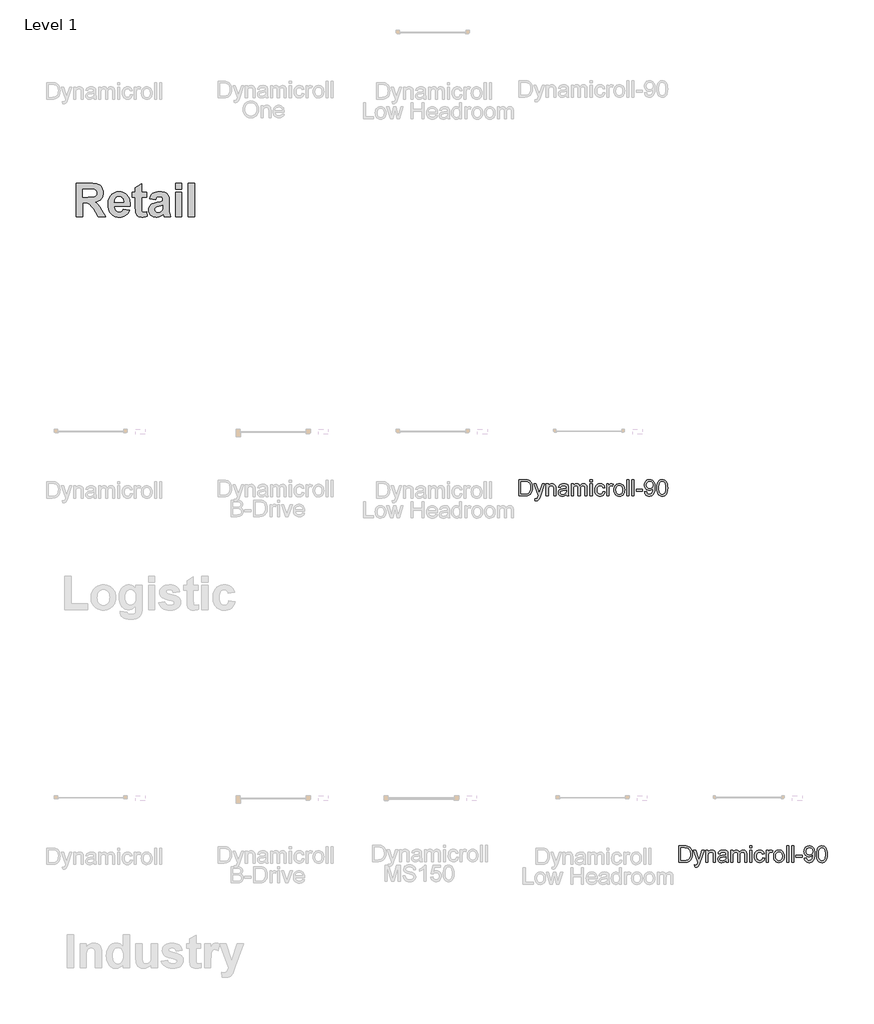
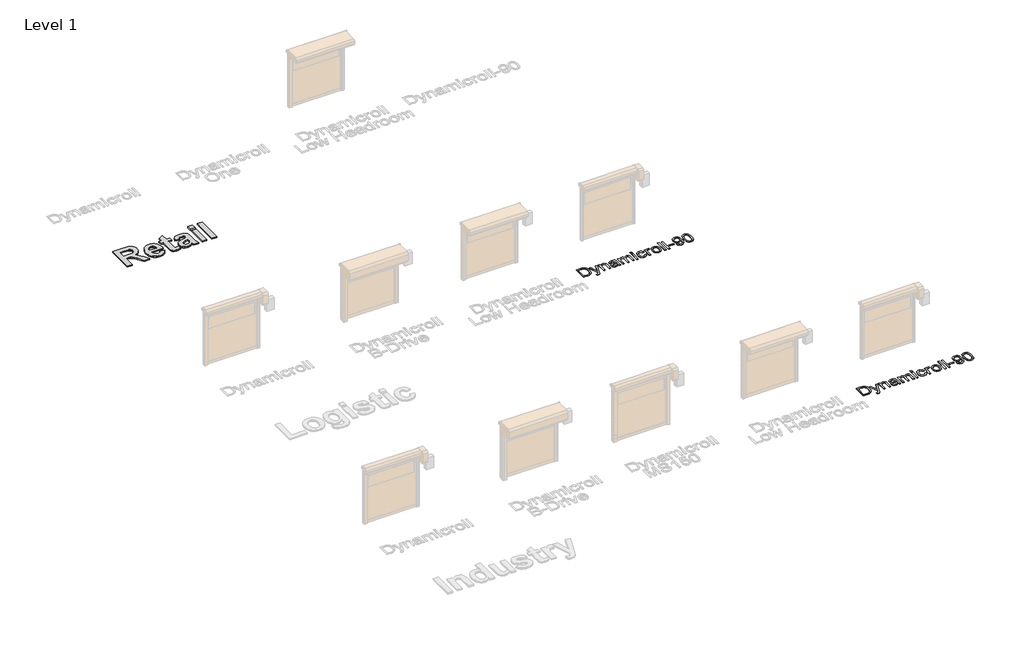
# One storey, part 11 of 17: 3 proxies.
"""IFC4 building model written with IfcOpenShell, lengths in millimetres."""

from ifc_helpers import new_model, si_unit, origin, origin_with_axes, place, context, project, spatial, polyline, outline, extrude, element, save

model = new_model("IFC4")

# Units and contexts
model_context = context("Model", 3, world=origin())
ifc_project = project(units=[si_unit("LENGTHUNIT", "METRE", prefix="MILLI")], contexts=[model_context])

# Site, building, storey
site = spatial("IfcSite", under=ifc_project)
building = spatial("IfcBuilding", under=site)
storey = spatial("IfcBuildingStorey", under=building, Name="Level 1", Elevation=0.0)

# Proxies
placement = place(None, origin())
element("IfcBuildingElementProxy", 1, Name="1000", ObjectType="1000", at=placement, inside=storey, context=model_context, shape_type="SweptSolid", body=[
    extrude(outline(polyline([(1045.7794526, 38987.0003222), (1045.7794526, 40007.2597221), (1474.9361844, 40007.2597221), (1550.3738911, 40005.5358836), (1614.7410749, 40000.3643678), (1668.0377356, 39991.7451749), (1710.2638733, 39979.6783048), (1745.1202058, 39963.1990406), (1776.3074506, 39941.3426652), (1803.8256077, 39914.1091786), (1827.6746773, 39881.4985808), (1846.9373873, 39844.9184098), (1860.6964659, 39805.7762035), (1868.9519131, 39764.0719618), (1871.7037288, 39719.8056849), (1867.726248, 39664.6270352), (1855.7938057, 39614.477566), (1835.9064019, 39569.3572772), (1808.0640366, 39529.2661689), (1772.2983397, 39495.1689581), (1728.6409415, 39468.0303617), (1677.0918419, 39447.8503798), (1617.6510409, 39434.6290123), (1674.015818, 39394.0160079), (1719.6263728, 39349.6073956), (1766.8184308, 39285.271842), (1827.9277178, 39184.8780134), (1952.676697, 38987.0003222), (1725.6993454, 38987.0003222), (1577.9236784, 39220.0506464), (1506.53462, 39309.5321024), (1461.9045973, 39358.3372938), (1429.7051904, 39382.3445137), (1395.6079795, 39397.432055), (1350.3453555, 39405.4028316), (1284.649709, 39408.0597571), (1240.1145764, 39408.0597571), (1240.1145764, 38987.0003222), (1045.7794526, 38987.0003222)]), holes=[polyline([(1240.1145764, 39586.2002872), (1400.2892293, 39586.2002872), (1526.7146019, 39589.1418834), (1568.0313753, 39592.8188785), (1594.7508733, 39597.9666717), (1629.3541652, 39613.9714849), (1655.4805995, 39638.4531558), (1665.0566019, 39653.706755), (1671.8966036, 39670.7474529), (1677.368605, 39710.1901449), (1675.5656912, 39733.1931102), (1670.15695, 39753.8712656), (1661.1423813, 39772.2246113), (1648.521985, 39788.2531471), (1632.612062, 39801.7512776), (1613.7289127, 39812.5134075), (1591.8725373, 39820.5395367), (1567.0429357, 39825.8296652), (1409.1456477, 39829.119192), (1240.1145764, 39829.119192), (1240.1145764, 39586.2002872)])]), origin_with_axes(), (0.0, 0.0, 1.0), 50.0),
    extrude(outline(polyline([(2487.0982875, 39213.7246333), (2681.4334113, 39181.335446), (2660.4310477, 39132.9177229), (2634.114833, 39090.6520476), (2602.4847672, 39054.53842), (2565.5408505, 39024.5768403), (2523.457048, 39001.0519789), (2476.4073253, 38984.2485065), (2424.3916822, 38974.166423), (2367.4101188, 38970.8057285), (2321.8746854, 38972.7865614), (2279.3994609, 38978.72906), (2239.9844453, 38988.6332243), (2203.6296385, 39002.4990544), (2170.3350406, 39020.3265502), (2140.1006515, 39042.1157117), (2112.9264713, 39067.866539), (2088.8124999, 39097.579032), (2057.593625, 39151.6506293), (2035.2944287, 39212.3961705), (2021.9149109, 39279.8156556), (2017.4550716, 39353.9090846), (2023.3698939, 39441.2713261), (2030.7634218, 39481.2042841), (2041.1143608, 39518.6384669), (2054.422711, 39553.5738744), (2070.6884722, 39586.0105068), (2089.9116447, 39615.9483641), (2112.0922283, 39643.3874461), (2136.5343616, 39667.9402846), (2162.5421831, 39689.2194113), (2190.1156929, 39707.2248262), (2219.2548909, 39721.9565293), (2249.9597772, 39733.4145206), (2282.2303518, 39741.5988001), (2316.0666146, 39746.5093678), (2351.4685657, 39748.1462237), (2391.0101016, 39746.4658765), (2428.4087005, 39741.4248348), (2463.6643625, 39733.0230986), (2496.7770876, 39721.2606679), (2527.7468757, 39706.1375427), (2556.5737269, 39687.653723), (2583.257641, 39665.8092089), (2607.7986183, 39640.6040003), (2629.7380226, 39611.9273919), (2648.6172181, 39579.6686787), (2664.4362047, 39543.8278604), (2677.1949825, 39504.4049373), (2686.8935514, 39461.3999092), (2693.5319114, 39414.8127761), (2697.1100626, 39364.6435381), (2697.6280049, 39310.8921952), (2211.7901954, 39310.8921952), (2215.411838, 39267.4008548), (2224.2524413, 39229.0335851), (2238.3120055, 39195.790386), (2257.5905306, 39167.6712576), (2280.8228139, 39145.3088011), (2306.7436527, 39129.3356179), (2335.3530472, 39119.751708), (2366.6509972, 39116.5570714), (2407.453782, 39122.3137434), (2425.245694, 39129.5095833), (2441.2979523, 39139.5837592), (2455.5472969, 39152.8525718), (2467.9304677, 39169.6323217), (2487.0982875, 39213.7246333)]), holes=[polyline([(2503.2928811, 39424.2543507), (2499.8293889, 39465.2864535), (2491.4632366, 39501.0837804), (2478.194424, 39531.6463314), (2460.0229512, 39556.9741065), (2438.2930961, 39576.8456953), (2414.3491363, 39591.0396873), (2388.191072, 39599.5560825), (2359.818903, 39602.3948809), (2329.6754504, 39599.4058397), (2302.2521834, 39590.438716), (2277.5491021, 39575.49351), (2255.5662064, 39554.5702215), (2237.6635892, 39528.3963421), (2224.9483028, 39497.9524039), (2217.4203471, 39463.2384067), (2215.0797223, 39424.2543507), (2503.2928811, 39424.2543507)])]), origin_with_axes(), (0.0, 0.0, 1.0), 50.0),
    extrude(outline(polyline([(3199.6604081, 39731.9516301), (3199.6604081, 39586.2002872), (3053.9090652, 39586.2002872), (3053.9090652, 39266.6101032), (3055.0161175, 39189.9071938), (3058.3372744, 39153.6275084), (3065.5805595, 39138.9511579), (3078.4539962, 39127.0582532), (3095.8505324, 39119.1823668), (3116.6631156, 39116.5570714), (3155.1252756, 39121.2383211), (3207.7577049, 39135.2820703), (3215.8550017, 38997.1219432), (3179.5278713, 38985.6085993), (3140.891746, 38977.3847822), (3099.9466259, 38972.450492), (3056.692511, 38970.8057285), (3004.9457235, 38975.360458), (2958.512787, 38989.0246464), (2920.5883382, 39009.9004898), (2894.3670137, 39036.0901842), (2877.0653678, 39070.0608748), (2865.8999546, 39114.2797067), (2861.1554447, 39167.1019164), (2859.5739414, 39255.7293606), (2859.5739414, 39586.2002872), (2762.4063795, 39586.2002872), (2762.4063795, 39731.9516301), (2859.5739414, 39731.9516301), (2859.5739414, 39877.7029729), (3053.9090652, 39991.0651285), (3053.9090652, 39731.9516301), (3199.6604081, 39731.9516301)])), origin_with_axes(), (0.0, 0.0, 1.0), 50.0),
    extrude(outline(polyline([(3474.9685001, 39505.227319), (3296.82797, 39537.6165063), (3313.5681823, 39587.7817905), (3335.4482802, 39630.9884603), (3362.4682639, 39667.2365156), (3394.6281332, 39696.5259565), (3433.5568366, 39719.1098234), (3480.8833224, 39735.2411569), (3536.6075907, 39744.919957), (3600.7296415, 39748.1462237), (3658.8815173, 39746.1930672), (3709.0942466, 39740.3335975), (3751.3678295, 39730.5678147), (3785.7022658, 39716.8957188), (3813.8213942, 39700.2266742), (3837.4490533, 39681.4700452), (3856.5852431, 39660.6258319), (3871.2299635, 39637.6940342), (3882.0790761, 39608.6971715), (3889.8284422, 39569.6577629), (3894.4780618, 39520.5758084), (3896.027935, 39461.451308), (3896.027935, 39231.6905106), (3898.5899704, 39146.4158534), (3906.2760763, 39086.9513299), (3920.9840569, 39038.6838496), (3944.611716, 38987.0003222), (3750.2765922, 38987.0003222), (3732.0576743, 39048.7422105), (3725.2255801, 39073.2871415), (3674.9337756, 39028.5305985), (3621.225924, 38996.4893419), (3593.0593505, 38985.2527611), (3563.9755051, 38977.2266319), (3533.9743878, 38972.4109544), (3503.0559985, 38970.8057285), (3450.573812, 38974.7041341), (3403.9590026, 38986.3993509), (3363.2115704, 39005.8913789), (3328.3315155, 39033.1802181), (3300.3784449, 39066.4155097), (3280.4119659, 39103.7468948), (3268.4320785, 39145.1743734), (3264.4387827, 39190.6979454), (3266.2179739, 39221.3474791), (3271.5555475, 39250.2889893), (3280.4515035, 39277.5224759), (3292.9058418, 39303.0479389), (3308.5706319, 39326.2802222), (3327.0979429, 39346.6341695), (3348.4877748, 39364.1097808), (3372.7401277, 39378.7070561), (3435.430918, 39403.3152472), (3520.7688353, 39424.5073913), (3631.2842849, 39449.4951432), (3701.6928112, 39472.8381317), (3701.6928112, 39493.3344143), (3700.1824756, 39520.6944211), (3695.6514687, 39543.8159992), (3688.0997905, 39562.6991484), (3677.527441, 39577.3438688), (3662.7799229, 39588.3036866), (3642.7027387, 39596.1321279), (3617.2958884, 39600.8291926), (3586.559372, 39602.3948809), (3546.2626683, 39597.0177697), (3529.8624792, 39590.2963808), (3515.9610653, 39580.8864362), (3503.9100103, 39568.0920746), (3493.0608977, 39551.2174346), (3474.9685001, 39505.227319)]), holes=[polyline([(3701.6928112, 39327.0867888), (3592.1262636, 39300.1379728), (3530.1313348, 39284.6708707), (3493.9465396, 39269.393549), (3478.5585126, 39256.409407), (3467.5670648, 39241.7488715), (3460.9721961, 39225.4119426), (3458.7739065, 39207.3986201), (3460.5372827, 39189.5513556), (3465.8274112, 39172.9534786), (3474.644292, 39157.6049892), (3486.9879251, 39143.5058874), (3502.0517439, 39131.7157804), (3519.0291817, 39123.2942754), (3537.9202385, 39118.2413724), (3558.7249142, 39116.5570714), (3582.8428393, 39118.5181355), (3606.3597932, 39124.4013277), (3629.2757758, 39134.2066481), (3651.5907871, 39147.9340966), (3678.7926437, 39174.3768315), (3694.6076765, 39206.1334175), (3699.9215276, 39238.8389055), (3701.6928112, 39291.9141558), (3701.6928112, 39327.0867888)])]), origin_with_axes(), (0.0, 0.0, 1.0), 50.0),
    extrude(outline(polyline([(4090.3630589, 39829.119192), (4090.3630589, 40007.2597221), (4284.6981827, 40007.2597221), (4284.6981827, 39829.119192), (4090.3630589, 39829.119192)])), origin_with_axes(), (0.0, 0.0, 1.0), 50.0),
    extrude(outline(polyline([(4090.3630589, 38987.0003222), (4090.3630589, 39731.9516301), (4284.6981827, 39731.9516301), (4284.6981827, 38987.0003222), (4090.3630589, 38987.0003222)])), origin_with_axes(), (0.0, 0.0, 1.0), 50.0),
    extrude(outline(polyline([(4479.0333065, 38987.0003222), (4479.0333065, 40007.2597221), (4673.3684303, 40007.2597221), (4673.3684303, 38987.0003222), (4479.0333065, 38987.0003222)])), origin_with_axes(), (0.0, 0.0, 1.0), 50.0),
])
element("IfcBuildingElementProxy", 2, Name="500mm", ObjectType="500mm", at=placement, inside=storey, context=model_context, shape_type="SweptSolid", body=[
    extrude(outline(polyline([(14635.3862268, 30417.6094957), (14635.3862268, 30919.8910465), (14808.6586466, 30919.8910465), (14860.4380374, 30918.0822933), (14898.299226, 30912.6560339), (14938.3370499, 30898.7071749), (14972.1208797, 30876.7262257), (14990.7372415, 30858.7613216), (15006.8550715, 30838.4664982), (15020.4743695, 30815.8417555), (15031.5951356, 30790.8870935), (15046.4023859, 30734.9077166), (15051.338136, 30671.4480724), (15047.9965413, 30617.5380317), (15037.9717569, 30570.0965827), (15022.7046541, 30529.7062053), (15003.636104, 30496.9493794), (14981.6858116, 30471.0903408), (14957.7734819, 30451.3933256), (14930.320288, 30436.7853447), (14897.7474031, 30426.193409), (14859.9935133, 30419.755474), (14816.9973051, 30417.6094957), (14635.3862268, 30417.6094957)]), holes=[polyline([(14698.1714207, 30480.3946896), (14809.2717832, 30480.3946896), (14855.2263758, 30482.6632952), (14890.0831948, 30489.4691121), (14916.3867575, 30500.4136015), (14936.6815809, 30515.0982245), (14958.4939175, 30542.2755068), (14974.8799947, 30577.4542226), (14985.1347053, 30620.787656), (14988.5529422, 30672.4290911), (14986.8783127, 30708.8800654), (14981.8544242, 30740.8551422), (14973.4812767, 30768.3543213), (14961.7588702, 30791.3776028), (14947.6375665, 30810.4461529), (14932.0677275, 30826.0811377), (14915.0493531, 30838.2825572), (14896.5824434, 30847.0504114), (14860.4686942, 30854.5919923), (14807.5550006, 30857.1058526), (14698.1714207, 30857.1058526), (14698.1714207, 30480.3946896)])]), origin_with_axes(), (0.0, 0.0, 1.0), 5.0),
    extrude(outline(polyline([(15129.8196283, 30276.3428096), (15121.9714791, 30336.7980841), (15153.8545854, 30331.2798542), (15170.623873, 30333.0119653), (15183.653027, 30338.2082984), (15193.8004387, 30346.5009717), (15201.9244994, 30357.5221032), (15219.0923258, 30403.7526072), (15223.9974191, 30418.9583964), (15090.5788822, 30786.4725096), (15156.7976413, 30786.4725096), (15227.5536117, 30581.6848656), (15252.2017054, 30499.769808), (15276.8497991, 30572.1199337), (15349.5678068, 30786.4725096), (15415.2960566, 30786.4725096), (15286.9052403, 30408.7803278), (15253.5506061, 30326.8652703), (15236.4747501, 30300.7149918), (15217.1302885, 30282.5968035), (15194.65883, 30272.0201961), (15168.2019832, 30268.4946604), (15150.0224812, 30270.4566977), (15129.8196283, 30276.3428096)])), origin_with_axes(), (0.0, 0.0, 1.0), 5.0),
    extrude(outline(polyline([(15467.2900453, 30417.6094957), (15467.2900453, 30786.4725096), (15530.0752391, 30786.4725096), (15530.0752391, 30734.9690302), (15551.8875757, 30760.9353677), (15578.0838395, 30779.4827517), (15608.6640303, 30790.611182), (15643.6281483, 30794.3206588), (15674.5762211, 30791.3316176), (15702.9184632, 30782.3644939), (15726.5548814, 30768.5382623), (15743.3854826, 30750.971897), (15754.8051529, 30729.7113834), (15762.2087781, 30704.8027066), (15765.519716, 30644.1021774), (15765.519716, 30417.6094957), (15702.7345222, 30417.6094957), (15702.7345222, 30635.6408915), (15700.925769, 30668.1064776), (15695.4995096, 30691.1910728), (15685.4900536, 30707.7304342), (15669.9317109, 30720.5603188), (15649.9894411, 30728.7916784), (15626.8282038, 30731.5354649), (15607.7634859, 30729.9949591), (15590.0553327, 30725.3734415), (15573.7037445, 30717.6709123), (15558.7087211, 30706.8873713), (15546.1815727, 30691.7965453), (15537.2336096, 30671.1721609), (15531.8648317, 30645.0142182), (15530.0752391, 30613.3227172), (15530.0752391, 30417.6094957), (15467.2900453, 30417.6094957)])), origin_with_axes(), (0.0, 0.0, 1.0), 5.0),
    extrude(outline(polyline([(16087.2938345, 30464.6983911), (16057.2961234, 30438.9773083), (16026.4093643, 30422.146707), (15993.9284498, 30412.8576866), (15959.1482728, 30409.7613465), (15931.1930733, 30411.6237491), (15906.6791032, 30417.2109569), (15885.6063627, 30426.5229699), (15867.9748517, 30439.5597881), (15854.0528174, 30455.493677), (15844.1085072, 30473.4969022), (15838.1419211, 30493.5694635), (15836.1530591, 30515.7113611), (15839.1574287, 30541.7390123), (15848.1705376, 30565.3754305), (15862.0734113, 30585.6089402), (15879.7470755, 30601.427866), (15900.5170798, 30613.3840308), (15923.7089739, 30622.0292577), (15978.0328819, 30631.4715623), (16042.2282901, 30641.4043761), (16086.9259525, 30653.0539726), (16087.2938345, 30667.0334885), (16082.971221, 30695.0538338), (16070.0033807, 30713.3866199), (16056.9282414, 30721.3267396), (16041.0020167, 30726.9982537), (16000.5963109, 30731.5354649), (15963.1949748, 30728.5157669), (15937.0753531, 30719.4566728), (15919.2637332, 30702.7027136), (15906.7864022, 30676.5984203), (15844.0012083, 30684.4465696), (15854.8997124, 30718.7822224), (15871.1631623, 30745.7602354), (15894.3090712, 30766.392284), (15925.8549522, 30781.6900436), (15964.4365765, 30791.163005), (16008.6897148, 30794.3206588), (16051.1341, 30791.530887), (16084.7799742, 30783.1615716), (16110.1485034, 30770.5769417), (16127.7608539, 30755.1412263), (16139.4411073, 30736.0573478), (16147.013345, 30712.5282285), (16150.0790283, 30657.5911839), (16150.0790283, 30579.4775736), (16153.2673389, 30470.400562), (16157.9884912, 30443.4378775), (16165.7753268, 30417.6094957), (16102.9901329, 30417.6094957), (16092.9346917, 30439.4371608), (16087.2938345, 30464.6983911)]), holes=[polyline([(16087.2938345, 30590.2687788), (16045.1100323, 30579.8147988), (15986.0036585, 30571.0162877), (15931.9863188, 30560.8382192), (15917.9301609, 30553.8791181), (15907.5221662, 30544.2835294), (15901.0842312, 30532.7872171), (15898.9382529, 30520.1259451), (15903.61342, 30501.4559338), (15917.638921, 30486.1581742), (15940.7081878, 30475.9494488), (15972.514652, 30472.5465403), (16006.2371682, 30476.3020024), (16036.0356098, 30487.5683885), (16060.1931941, 30504.1690635), (16076.9931386, 30523.9273923), (16084.442749, 30544.2835294), (16086.9259525, 30572.4878157), (16087.2938345, 30590.2687788)])]), origin_with_axes(), (0.0, 0.0, 1.0), 5.0),
    extrude(outline(polyline([(16236.4086698, 30417.6094957), (16236.4086698, 30786.4725096), (16299.1938637, 30786.4725096), (16299.1938637, 30725.7719804), (16318.0784728, 30753.6543699), (16342.3586844, 30775.4973634), (16371.2067642, 30789.6148349), (16403.7949776, 30794.3206588), (16438.7131104, 30789.5228644), (16466.7027988, 30775.1294814), (16487.6107589, 30752.0908714), (16501.2837064, 30721.3573964), (16524.1690321, 30753.2788237), (16550.2733254, 30776.0798432), (16579.5965861, 30789.7604549), (16612.1388142, 30794.3206588), (16637.2735851, 30792.4237673), (16659.3350085, 30786.7330926), (16678.3230844, 30777.248635), (16694.2378128, 30763.9703942), (16706.8186107, 30746.7450862), (16715.8048948, 30725.4194268), (16721.1966653, 30699.993416), (16722.9939221, 30670.4670537), (16722.9939221, 30417.6094957), (16660.2087283, 30417.6094957), (16660.2087283, 30643.4890408), (16658.7525287, 30674.8049956), (16654.38393, 30695.9122251), (16646.1985556, 30710.3669218), (16633.292029, 30721.7252784), (16616.6913539, 30729.0829183), (16597.4235344, 30731.5354649), (16579.631075, 30729.9643023), (16563.4097783, 30725.2508142), (16548.7596443, 30717.3950008), (16535.6806729, 30706.3968619), (16524.9239567, 30691.934501), (16517.2405879, 30673.6860212), (16512.6305667, 30651.6514225), (16511.0938929, 30625.830705), (16511.0938929, 30417.6094957), (16448.3086991, 30417.6094957), (16448.3086991, 30650.4787987), (16444.6758644, 30685.9794112), (16433.7773603, 30711.3019552), (16425.3505633, 30720.1541157), (16414.6015113, 30726.4770875), (16386.1366419, 30731.5354649), (16361.9484007, 30728.1632133), (16339.6608832, 30718.0464585), (16321.2667834, 30701.430455), (16308.7587956, 30678.5604576), (16301.5850967, 30646.8306356), (16299.1938637, 30603.635158), (16299.1938637, 30417.6094957), (16236.4086698, 30417.6094957)])), origin_with_axes(), (0.0, 0.0, 1.0), 5.0),
    extrude(outline(polyline([(16817.1717129, 30857.1058526), (16817.1717129, 30919.8910465), (16879.9569067, 30919.8910465), (16879.9569067, 30857.1058526), (16817.1717129, 30857.1058526)])), origin_with_axes(), (0.0, 0.0, 1.0), 5.0),
    extrude(outline(polyline([(16817.1717129, 30417.6094957), (16817.1717129, 30786.4725096), (16879.9569067, 30786.4725096), (16879.9569067, 30417.6094957), (16817.1717129, 30417.6094957)])), origin_with_axes(), (0.0, 0.0, 1.0), 5.0),
    extrude(outline(polyline([(17209.5791744, 30551.0280326), (17272.3643683, 30543.1798834), (17265.5355587, 30513.5538865), (17254.8593167, 30487.3384622), (17240.3356421, 30464.5336106), (17221.9645349, 30445.1393317), (17200.5200803, 30429.6614632), (17176.7763632, 30418.6058428), (17150.7333836, 30411.9724706), (17122.3911416, 30409.7613465), (17087.1779368, 30412.8461903), (17055.605231, 30422.1007218), (17027.6730241, 30437.5249408), (17003.3813161, 30459.1188475), (16983.7187899, 30486.4762388), (16969.6741283, 30519.1909116), (16961.2473314, 30557.262866), (16958.438399, 30600.692102), (16963.2361934, 30656.56418), (16977.6295765, 30704.9866476), (16988.4820953, 30725.9367608), (17001.8484745, 30744.089438), (17017.7287139, 30759.4446792), (17036.1228137, 30772.0024844), (17077.1263277, 30788.7411152), (17121.5327502, 30794.3206588), (17149.3883151, 30792.4046067), (17174.5843996, 30786.6564506), (17197.1210039, 30777.0761903), (17216.998128, 30763.6638259), (17233.8785466, 30746.7259257), (17247.4250347, 30726.569058), (17257.6375921, 30703.1932229), (17264.516219, 30676.5984203), (17201.7310252, 30668.7502711), (17190.3420117, 30696.1421513), (17172.6070339, 30715.7778528), (17149.5071103, 30727.5960619), (17122.0232596, 30731.5354649), (17100.6899359, 30729.5964203), (17081.4489412, 30723.7792862), (17064.3002753, 30714.0840628), (17049.2439382, 30700.51075), (17036.9850371, 30682.7451153), (17028.2286792, 30660.4729262), (17022.9748645, 30633.6941826), (17021.2235929, 30602.4088846), (17022.9365434, 30570.6522378), (17028.075395, 30543.5630938), (17036.6401477, 30521.1414526), (17048.6308015, 30503.3873143), (17063.3882345, 30489.8944757), (17080.2533247, 30480.2567338), (17099.2260722, 30474.4740887), (17120.3064769, 30472.5465403), (17152.8180482, 30477.3596631), (17179.4741645, 30491.7990314), (17190.2538734, 30502.7205282), (17198.8646113, 30516.2325273), (17209.5791744, 30551.0280326)])), origin_with_axes(), (0.0, 0.0, 1.0), 5.0),
    extrude(outline(polyline([(17327.3014129, 30417.6094957), (17327.3014129, 30786.4725096), (17382.2384575, 30786.4725096), (17382.2384575, 30731.9033469), (17402.5332809, 30763.5411985), (17421.233949, 30782.180553), (17439.9959307, 30791.2856323), (17460.4746951, 30794.3206588), (17491.7446647, 30789.4768792), (17523.5051436, 30774.9455404), (17502.5358699, 30718.6595951), (17480.4629502, 30728.3164975), (17458.3900305, 30731.5354649), (17439.6433771, 30728.4391248), (17422.8894179, 30719.1501044), (17409.3544262, 30704.373511), (17400.2646752, 30684.8144516), (17392.6311238, 30649.7430347), (17390.0866067, 30611.4833072), (17390.0866067, 30417.6094957), (17327.3014129, 30417.6094957)])), origin_with_axes(), (0.0, 0.0, 1.0), 5.0),
    extrude(outline(polyline([(17547.0495913, 30602.0410026), (17550.4448356, 30649.8120126), (17560.6305683, 30690.976475), (17577.6067895, 30725.5343899), (17601.3734993, 30753.4857573), (17625.3011574, 30771.3510267), (17651.7120189, 30784.1119334), (17680.606084, 30791.7684775), (17711.9833525, 30794.3206588), (17746.6217416, 30791.2128224), (17777.9415285, 30781.889313), (17805.9427133, 30766.3501308), (17830.6252959, 30744.5952758), (17850.7706673, 30717.3605118), (17865.1602182, 30685.381603), (17873.7939488, 30648.6585492), (17876.671859, 30607.1913506), (17871.5828247, 30543.7623632), (17865.2215319, 30517.7270479), (17856.3157219, 30495.4778514), (17844.9765259, 30476.2598492), (17831.3150747, 30459.3181169), (17815.3313684, 30444.6526545), (17797.025407, 30432.2634619), (17756.2978045, 30415.3868753), (17711.9833525, 30409.7613465), (17676.8391256, 30412.8576866), (17645.2280988, 30422.146707), (17617.1502719, 30437.6284076), (17592.6056451, 30459.3027885), (17572.6748715, 30486.8019677), (17558.4386048, 30519.7580631), (17549.8968447, 30558.1710747), (17547.0495913, 30602.0410026)]), holes=[polyline([(17609.8347852, 30602.16363), (17611.6512025, 30571.7098986), (17617.1004546, 30545.3411901), (17626.1825413, 30523.0575047), (17638.8974628, 30504.8588423), (17654.363835, 30490.7222102), (17671.700274, 30480.6246158), (17690.9067799, 30474.5660592), (17711.9833525, 30472.5465403), (17732.9526262, 30474.5775555), (17752.08249, 30480.6706011), (17769.3729437, 30490.825677), (17784.8239875, 30505.0427833), (17797.538909, 30523.4215546), (17806.6209958, 30546.0616257), (17812.0702478, 30572.9629966), (17813.8866652, 30604.1256673), (17812.0587515, 30633.6137085), (17806.5750105, 30659.2926381), (17797.4354422, 30681.1624563), (17784.6400465, 30699.223163), (17769.1315212, 30713.3597951), (17751.8525637, 30723.4573895), (17732.8031742, 30729.5159461), (17711.9833525, 30731.5354649), (17690.9067799, 30729.5236103), (17671.700274, 30723.4880463), (17654.363835, 30713.428773), (17638.8974628, 30699.3457904), (17626.1825413, 30681.2007774), (17617.1004546, 30658.955413), (17611.6512025, 30632.6096972), (17609.8347852, 30602.16363)])]), origin_with_axes(), (0.0, 0.0, 1.0), 5.0),
    extrude(outline(polyline([(17947.3052021, 30417.6094957), (17947.3052021, 30919.8910465), (18010.0903959, 30919.8910465), (18010.0903959, 30417.6094957), (17947.3052021, 30417.6094957)])), origin_with_axes(), (0.0, 0.0, 1.0), 5.0),
    extrude(outline(polyline([(18104.2681867, 30417.6094957), (18104.2681867, 30919.8910465), (18167.0533805, 30919.8910465), (18167.0533805, 30417.6094957), (18104.2681867, 30417.6094957)])), origin_with_axes(), (0.0, 0.0, 1.0), 5.0),
    extrude(outline(polyline([(18229.8385744, 30566.7243311), (18229.8385744, 30629.509525), (18426.0423051, 30629.509525), (18426.0423051, 30566.7243311), (18229.8385744, 30566.7243311)])), origin_with_axes(), (0.0, 0.0, 1.0), 5.0),
    extrude(outline(polyline([(18488.827499, 30543.1798834), (18551.6126928, 30551.0280326), (18562.3425843, 30515.3894644), (18579.8169791, 30491.1245811), (18603.6066815, 30477.1910505), (18633.2824957, 30472.5465403), (18659.9079551, 30475.5355816), (18684.1115247, 30484.5027052), (18704.2224072, 30498.4668926), (18718.569805, 30516.4471251), (18729.4376522, 30540.0835433), (18739.109883, 30571.0162877), (18745.9156999, 30606.5169003), (18748.1843056, 30643.8569228), (18747.8164236, 30656.1196559), (18726.0654006, 30629.5708386), (18697.6005312, 30608.5402512), (18664.4758233, 30594.8366469), (18628.7452845, 30590.2687788), (18598.9200181, 30593.0585506), (18571.493649, 30601.427866), (18546.466177, 30615.376725), (18523.8376022, 30634.9051275), (18505.0871167, 30658.993734), (18491.6939129, 30686.6232047), (18483.6579905, 30717.7935396), (18480.9793497, 30752.5047387), (18483.7882821, 30788.3732332), (18492.215079, 30820.5629078), (18506.2597406, 30849.0737624), (18525.9222668, 30873.9057971), (18549.815436, 30894.0243437), (18576.5520264, 30908.3947341), (18606.1320381, 30917.0169684), (18638.555471, 30919.8910465), (18662.4946254, 30918.2509059), (18685.3837833, 30913.3304842), (18707.2229447, 30905.1297814), (18728.0121095, 30893.6487975), (18747.057667, 30879.1327871), (18763.6660062, 30861.8270049), (18777.8371272, 30841.7314509), (18789.57103, 30818.8461251), (18798.771912, 30791.8527837), (18805.3439706, 30759.4331829), (18810.6016174, 30678.315203), (18805.359299, 30592.3074582), (18798.806401, 30556.6267368), (18789.6323437, 30525.828116), (18777.8716162, 30499.1605034), (18763.5587073, 30475.8728067), (18746.6936171, 30455.9650258), (18727.2763455, 30439.4371608), (18705.6977672, 30426.453992), (18682.3487569, 30417.1803001), (18657.2293144, 30411.6160849), (18630.3394398, 30409.7613465), (18602.1428177, 30411.949478), (18576.6593253, 30418.5138723), (18553.8889627, 30429.4545296), (18533.8317297, 30444.7714497), (18516.9934642, 30464.0507655), (18503.8800039, 30486.8786097), (18494.4913489, 30513.2549824), (18488.827499, 30543.1798834)]), holes=[polyline([(18747.8164236, 30753.9762667), (18746.1226336, 30776.478382), (18741.0412635, 30796.5279508), (18732.5723134, 30814.1249729), (18720.7157833, 30829.2694483), (18706.0541529, 30841.4478752), (18689.1699022, 30850.1467516), (18670.0630311, 30855.3660774), (18648.7335395, 30857.1058526), (18626.7219335, 30855.2319537), (18606.7949921, 30849.610257), (18588.9527153, 30840.2407624), (18573.1951032, 30827.12347), (18560.3192334, 30811.0248006), (18551.1221835, 30792.7111751), (18545.6039536, 30772.1825933), (18543.7645436, 30749.4390554), (18545.5043189, 30729.0407652), (18550.7236447, 30710.6428333), (18559.422521, 30694.2452598), (18571.6009479, 30679.8480446), (18586.7530876, 30668.1256381), (18604.3731023, 30659.7524906), (18624.4609921, 30654.7286021), (18647.0167569, 30653.0539726), (18668.0511764, 30654.7286021), (18687.1312228, 30659.7524906), (18704.2568961, 30668.1256381), (18719.4281963, 30679.8480446), (18731.8480457, 30694.5288355), (18740.7193668, 30711.7771361), (18746.0421594, 30731.5929465), (18747.8164236, 30753.9762667)])]), origin_with_axes(), (0.0, 0.0, 1.0), 5.0),
    extrude(outline(polyline([(18865.538662, 30664.7035692), (18870.1525154, 30745.1011135), (18883.9940755, 30809.2198796), (18894.3407566, 30835.4199754), (18906.9253865, 30858.040886), (18921.7479652, 30877.0826114), (18938.8084927, 30892.5451515), (18958.1644506, 30904.5089806), (18979.8733205, 30913.0545727), (19003.9351022, 30918.181928), (19030.3497959, 30919.8910465), (19069.038719, 30915.8443445), (19103.6809402, 30903.7042387), (19132.6516474, 30883.9459099), (19154.3260282, 30857.044539), (19170.696777, 30823.2300522), (19183.7565879, 30782.7323759), (19192.3098443, 30731.3055387), (19195.1609297, 30664.7035692), (19190.5930616, 30584.7658773), (19176.8894573, 30520.8003954), (19166.6232504, 30494.5888032), (19154.096102, 30471.9334037), (19139.3080122, 30452.8341968), (19122.258981, 30437.2911825), (19102.8800305, 30425.2468792), (19081.1021828, 30416.6438055), (19056.9254379, 30411.4819612), (19030.3497959, 30409.7613465), (18995.7688883, 30412.7503877), (18965.1120554, 30421.7175113), (18938.3792971, 30436.6627174), (18915.5706134, 30457.5860059), (18893.6816347, 30495.4088735), (18878.0466499, 30542.5360899), (18868.665659, 30598.9676551), (18865.538662, 30664.7035692)]), holes=[polyline([(18928.3238559, 30664.8261965), (18930.1632659, 30610.2455376), (18935.6814958, 30566.0652092), (18944.8785457, 30532.2852114), (18957.7544155, 30508.9055442), (18973.3280866, 30492.99848), (18990.6185404, 30481.6362913), (19009.6257768, 30474.8189781), (19030.3497959, 30472.5465403), (19051.0738149, 30474.8266423), (19070.0810514, 30481.6669481), (19087.3715051, 30493.0674579), (19102.9451763, 30509.0281715), (19115.8210461, 30532.4461598), (19125.018096, 30566.2184934), (19130.5363259, 30610.3451723), (19132.3757359, 30664.8261965), (19130.5976396, 30717.9621522), (19125.2633506, 30761.3645634), (19116.3728691, 30795.0334302), (19103.9261949, 30818.9687525), (19088.6131069, 30835.6537338), (19071.1233837, 30847.5715776), (19051.4570253, 30854.7222839), (19029.6140319, 30857.1058526), (19008.9973117, 30855.0058596), (18990.3119721, 30848.7058804), (18973.5580129, 30838.2059151), (18958.7354341, 30823.5059637), (18945.4303687, 30797.4476558), (18935.9267504, 30762.3149252), (18930.2245795, 30718.1077721), (18928.3238559, 30664.8261965)])]), origin_with_axes(), (0.0, 0.0, 1.0), 5.0),
])
element("IfcBuildingElementProxy", 3, Name="500mm", ObjectType="500mm", at=placement, inside=storey, context=model_context, shape_type="SweptSolid", body=[
    extrude(outline(polyline([(19535.3862268, 19179.9547363), (19535.3862268, 19682.236287), (19708.6586466, 19682.236287), (19760.4380374, 19680.4275339), (19798.299226, 19675.0012744), (19838.3370499, 19661.0524154), (19872.1208797, 19639.0714662), (19890.7372415, 19621.1065621), (19906.8550715, 19600.8117387), (19920.4743695, 19578.186996), (19931.5951356, 19553.232334), (19946.4023859, 19497.2529571), (19951.338136, 19433.7933129), (19947.9965413, 19379.8832722), (19937.9717569, 19332.4418233), (19922.7046541, 19292.0514459), (19903.636104, 19259.2946199), (19881.6858116, 19233.4355813), (19857.7734819, 19213.7385661), (19830.320288, 19199.1305853), (19797.7474031, 19188.5386495), (19759.9935133, 19182.1007146), (19716.9973051, 19179.9547363), (19535.3862268, 19179.9547363)]), holes=[polyline([(19598.1714207, 19242.7399301), (19709.2717832, 19242.7399301), (19755.2263758, 19245.0085357), (19790.0831948, 19251.8143526), (19816.3867575, 19262.758842), (19836.6815809, 19277.443465), (19858.4939175, 19304.6207474), (19874.8799947, 19339.7994632), (19885.1347053, 19383.1328965), (19888.5529422, 19434.7743316), (19886.8783127, 19471.2253059), (19881.8544242, 19503.2003827), (19873.4812767, 19530.6995618), (19861.7588702, 19553.7228434), (19847.6375665, 19572.7913934), (19832.0677275, 19588.4263782), (19815.0493531, 19600.6277977), (19796.5824434, 19609.395652), (19760.4686942, 19616.9372329), (19707.5550006, 19619.4510932), (19598.1714207, 19619.4510932), (19598.1714207, 19242.7399301)])]), origin_with_axes(), (0.0, 0.0, 1.0), 5.0),
    extrude(outline(polyline([(20029.8196283, 19038.6880501), (20021.9714791, 19099.1433246), (20053.8545854, 19093.6250947), (20070.623873, 19095.3572058), (20083.653027, 19100.553539), (20093.8004387, 19108.8462123), (20101.9244994, 19119.8673437), (20119.0923258, 19166.0978478), (20123.9974191, 19181.3036369), (19990.5788822, 19548.8177501), (20056.7976413, 19548.8177501), (20127.5536117, 19344.0301061), (20152.2017054, 19262.1150485), (20176.8497991, 19334.4651742), (20249.5678068, 19548.8177501), (20315.2960566, 19548.8177501), (20186.9052403, 19171.1255684), (20153.5506061, 19089.2105108), (20136.4747501, 19063.0602323), (20117.1302885, 19044.942044), (20094.65883, 19034.3654367), (20068.2019832, 19030.8399009), (20050.0224812, 19032.8019382), (20029.8196283, 19038.6880501)])), origin_with_axes(), (0.0, 0.0, 1.0), 5.0),
    extrude(outline(polyline([(20367.2900453, 19179.9547363), (20367.2900453, 19548.8177501), (20430.0752391, 19548.8177501), (20430.0752391, 19497.3142708), (20451.8875757, 19523.2806083), (20478.0838395, 19541.8279922), (20508.6640303, 19552.9564225), (20543.6281483, 19556.6658993), (20574.5762211, 19553.6768581), (20602.9184632, 19544.7097345), (20626.5548814, 19530.8835028), (20643.3854826, 19513.3171375), (20654.8051529, 19492.0566239), (20662.2087781, 19467.1479472), (20665.519716, 19406.447418), (20665.519716, 19179.9547363), (20602.7345222, 19179.9547363), (20602.7345222, 19397.9861321), (20600.925769, 19430.4517181), (20595.4995096, 19453.5363133), (20585.4900536, 19470.0756747), (20569.9317109, 19482.9055593), (20549.9894411, 19491.1369189), (20526.8282038, 19493.8807055), (20507.7634859, 19492.3401996), (20490.0553327, 19487.7186821), (20473.7037445, 19480.0161528), (20458.7087211, 19469.2326118), (20446.1815727, 19454.1417858), (20437.2336096, 19433.5174014), (20431.8648317, 19407.3594587), (20430.0752391, 19375.6679577), (20430.0752391, 19179.9547363), (20367.2900453, 19179.9547363)])), origin_with_axes(), (0.0, 0.0, 1.0), 5.0),
    extrude(outline(polyline([(20987.2938345, 19227.0436316), (20957.2961234, 19201.3225488), (20926.4093643, 19184.4919475), (20893.9284498, 19175.2029271), (20859.1482728, 19172.106587), (20831.1930733, 19173.9689896), (20806.6791032, 19179.5561974), (20785.6063627, 19188.8682104), (20767.9748517, 19201.9050286), (20754.0528174, 19217.8389175), (20744.1085072, 19235.8421427), (20738.1419211, 19255.914704), (20736.1530591, 19278.0566016), (20739.1574287, 19304.0842528), (20748.1705376, 19327.720671), (20762.0734113, 19347.9541807), (20779.7470755, 19363.7731065), (20800.5170798, 19375.7292714), (20823.7089739, 19384.3744982), (20878.0328819, 19393.8168028), (20942.2282901, 19403.7496167), (20986.9259525, 19415.3992132), (20987.2938345, 19429.378729), (20982.971221, 19457.3990743), (20970.0033807, 19475.7318604), (20956.9282414, 19483.6719801), (20941.0020167, 19489.3434942), (20900.5963109, 19493.8807055), (20863.1949748, 19490.8610074), (20837.0753531, 19481.8019133), (20819.2637332, 19465.0479541), (20806.7864022, 19438.9436609), (20744.0012083, 19446.7918101), (20754.8997124, 19481.127463), (20771.1631623, 19508.105476), (20794.3090712, 19528.7375245), (20825.8549522, 19544.0352841), (20864.4365765, 19553.5082455), (20908.6897148, 19556.6658993), (20951.1341, 19553.8761275), (20984.7799742, 19545.5068121), (21010.1485034, 19532.9221822), (21027.7608539, 19517.4864668), (21039.4411073, 19498.4025883), (21047.013345, 19474.8734691), (21050.0790283, 19419.9364244), (21050.0790283, 19341.8228141), (21053.2673389, 19232.7458026), (21057.9884912, 19205.783118), (21065.7753268, 19179.9547363), (21002.9901329, 19179.9547363), (20992.9346917, 19201.7824013), (20987.2938345, 19227.0436316)]), holes=[polyline([(20987.2938345, 19352.6140193), (20945.1100323, 19342.1600393), (20886.0036585, 19333.3615282), (20831.9863188, 19323.1834597), (20817.9301609, 19316.2243586), (20807.5221662, 19306.6287699), (20801.0842312, 19295.1324576), (20798.9382529, 19282.4711856), (20803.61342, 19263.8011743), (20817.638921, 19248.5034147), (20840.7081878, 19238.2946893), (20872.514652, 19234.8917809), (20906.2371682, 19238.6472429), (20936.0356098, 19249.913629), (20960.1931941, 19266.514304), (20976.9931386, 19286.2726329), (20984.442749, 19306.6287699), (20986.9259525, 19334.8330562), (20987.2938345, 19352.6140193)])]), origin_with_axes(), (0.0, 0.0, 1.0), 5.0),
    extrude(outline(polyline([(21136.4086698, 19179.9547363), (21136.4086698, 19548.8177501), (21199.1938637, 19548.8177501), (21199.1938637, 19488.1172209), (21218.0784728, 19515.9996104), (21242.3586844, 19537.8426039), (21271.2067642, 19551.9600755), (21303.7949776, 19556.6658993), (21338.7131104, 19551.868105), (21366.7027988, 19537.4747219), (21387.6107589, 19514.436112), (21401.2837064, 19483.7026369), (21424.1690321, 19515.6240642), (21450.2733254, 19538.4250837), (21479.5965861, 19552.1056954), (21512.1388142, 19556.6658993), (21537.2735851, 19554.7690078), (21559.3350085, 19549.0783332), (21578.3230844, 19539.5938755), (21594.2378128, 19526.3156347), (21606.8186107, 19509.0903267), (21615.8048948, 19487.7646673), (21621.1966653, 19462.3386565), (21622.9939221, 19432.8122943), (21622.9939221, 19179.9547363), (21560.2087283, 19179.9547363), (21560.2087283, 19405.8342813), (21558.7525287, 19437.1502361), (21554.38393, 19458.2574656), (21546.1985556, 19472.7121623), (21533.292029, 19484.0705189), (21516.6913539, 19491.4281588), (21497.4235344, 19493.8807055), (21479.631075, 19492.3095428), (21463.4097783, 19487.5960547), (21448.7596443, 19479.7402413), (21435.6806729, 19468.7421025), (21424.9239567, 19454.2797415), (21417.2405879, 19436.0312617), (21412.6305667, 19413.9966631), (21411.0938929, 19388.1759455), (21411.0938929, 19179.9547363), (21348.3086991, 19179.9547363), (21348.3086991, 19412.8240392), (21344.6758644, 19448.3246517), (21333.7773603, 19473.6471957), (21325.3505633, 19482.4993562), (21314.6015113, 19488.822328), (21286.1366419, 19493.8807055), (21261.9484007, 19490.5084538), (21239.6608832, 19480.391699), (21221.2667834, 19463.7756955), (21208.7587956, 19440.9056982), (21201.5850967, 19409.1758761), (21199.1938637, 19365.9803985), (21199.1938637, 19179.9547363), (21136.4086698, 19179.9547363)])), origin_with_axes(), (0.0, 0.0, 1.0), 5.0),
    extrude(outline(polyline([(21717.1717129, 19619.4510932), (21717.1717129, 19682.236287), (21779.9569067, 19682.236287), (21779.9569067, 19619.4510932), (21717.1717129, 19619.4510932)])), origin_with_axes(), (0.0, 0.0, 1.0), 5.0),
    extrude(outline(polyline([(21717.1717129, 19179.9547363), (21717.1717129, 19548.8177501), (21779.9569067, 19548.8177501), (21779.9569067, 19179.9547363), (21717.1717129, 19179.9547363)])), origin_with_axes(), (0.0, 0.0, 1.0), 5.0),
    extrude(outline(polyline([(22109.5791744, 19313.3732732), (22172.3643683, 19305.5251239), (22165.5355587, 19275.899127), (22154.8593167, 19249.6837028), (22140.3356421, 19226.8788512), (22121.9645349, 19207.4845722), (22100.5200803, 19192.0067037), (22076.7763632, 19180.9510833), (22050.7333836, 19174.3177111), (22022.3911416, 19172.106587), (21987.1779368, 19175.1914308), (21955.605231, 19184.4459623), (21927.6730241, 19199.8701813), (21903.3813161, 19221.464088), (21883.7187899, 19248.8214793), (21869.6741283, 19281.5361522), (21861.2473314, 19319.6081066), (21858.438399, 19363.0373425), (21863.2361934, 19418.9094205), (21877.6295765, 19467.3318882), (21888.4820953, 19488.2820014), (21901.8484745, 19506.4346786), (21917.7287139, 19521.7899198), (21936.1228137, 19534.3477249), (21977.1263277, 19551.0863557), (22021.5327502, 19556.6658993), (22049.3883151, 19554.7498473), (22074.5843996, 19549.0016911), (22097.1210039, 19539.4214308), (22116.998128, 19526.0090664), (22133.8785466, 19509.0711662), (22147.4250347, 19488.9142985), (22157.6375921, 19465.5384634), (22164.516219, 19438.9436609), (22101.7310252, 19431.0955116), (22090.3420117, 19458.4873919), (22072.6070339, 19478.1230933), (22049.5071103, 19489.9413024), (22022.0232596, 19493.8807055), (22000.6899359, 19491.9416608), (21981.4489412, 19486.1245267), (21964.3002753, 19476.4293033), (21949.2439382, 19462.8559905), (21936.9850371, 19445.0903559), (21928.2286792, 19422.8181667), (21922.9748645, 19396.0394232), (21921.2235929, 19364.7541252), (21922.9365434, 19332.9974784), (21928.075395, 19305.9083344), (21936.6401477, 19283.4866932), (21948.6308015, 19265.7325548), (21963.3882345, 19252.2397162), (21980.2533247, 19242.6019743), (21999.2260722, 19236.8193292), (22020.3064769, 19234.8917809), (22052.8180482, 19239.7049036), (22079.4741645, 19254.1442719), (22090.2538734, 19265.0657687), (22098.8646113, 19278.5777678), (22109.5791744, 19313.3732732)])), origin_with_axes(), (0.0, 0.0, 1.0), 5.0),
    extrude(outline(polyline([(22227.3014129, 19179.9547363), (22227.3014129, 19548.8177501), (22282.2384575, 19548.8177501), (22282.2384575, 19494.2485875), (22302.5332809, 19525.8864391), (22321.233949, 19544.5257935), (22339.9959307, 19553.6308729), (22360.4746951, 19556.6658993), (22391.7446647, 19551.8221197), (22423.5051436, 19537.2907809), (22402.5358699, 19481.0048356), (22380.4629502, 19490.661738), (22358.3900305, 19493.8807055), (22339.6433771, 19490.7843653), (22322.8894179, 19481.495345), (22309.3544262, 19466.7187515), (22300.2646752, 19447.1596921), (22292.6311238, 19412.0882752), (22290.0866067, 19373.8285477), (22290.0866067, 19179.9547363), (22227.3014129, 19179.9547363)])), origin_with_axes(), (0.0, 0.0, 1.0), 5.0),
    extrude(outline(polyline([(22447.0495913, 19364.3862432), (22450.4448356, 19412.1572531), (22460.6305683, 19453.3217155), (22477.6067895, 19487.8796304), (22501.3734993, 19515.8309978), (22525.3011574, 19533.6962672), (22551.7120189, 19546.4571739), (22580.606084, 19554.113718), (22611.9833525, 19556.6658993), (22646.6217416, 19553.5580629), (22677.9415285, 19544.2345536), (22705.9427133, 19528.6953714), (22730.6252959, 19506.9405163), (22750.7706673, 19479.7057523), (22765.1602182, 19447.7268435), (22773.7939488, 19411.0037897), (22776.671859, 19369.5365911), (22771.5828247, 19306.1076038), (22765.2215319, 19280.0722884), (22756.3157219, 19257.8230919), (22744.9765259, 19238.6050898), (22731.3150747, 19221.6633575), (22715.3313684, 19206.997895), (22697.025407, 19194.6087024), (22656.2978045, 19177.7321159), (22611.9833525, 19172.106587), (22576.8391256, 19175.2029271), (22545.2280988, 19184.4919475), (22517.1502719, 19199.9736482), (22492.6056451, 19221.648029), (22472.6748715, 19249.1472082), (22458.4386048, 19282.1033036), (22449.8968447, 19320.5163152), (22447.0495913, 19364.3862432)]), holes=[polyline([(22509.8347852, 19364.5088705), (22511.6512025, 19334.0551391), (22517.1004546, 19307.6864307), (22526.1825413, 19285.4027452), (22538.8974628, 19267.2040828), (22554.363835, 19253.0674507), (22571.700274, 19242.9698563), (22590.9067799, 19236.9112997), (22611.9833525, 19234.8917809), (22632.9526262, 19236.922796), (22652.08249, 19243.0158416), (22669.3729437, 19253.1709175), (22684.8239875, 19267.3880238), (22697.538909, 19285.7667951), (22706.6209958, 19308.4068662), (22712.0702478, 19335.3082371), (22713.8866652, 19366.4709078), (22712.0587515, 19395.958949), (22706.5750105, 19421.6378787), (22697.4354422, 19443.5076969), (22684.6400465, 19461.5684036), (22669.1315212, 19475.7050356), (22651.8525637, 19485.80263), (22632.8031742, 19491.8611866), (22611.9833525, 19493.8807055), (22590.9067799, 19491.8688508), (22571.700274, 19485.8332868), (22554.363835, 19475.7740135), (22538.8974628, 19461.6910309), (22526.1825413, 19443.5460179), (22517.1004546, 19421.3006535), (22511.6512025, 19394.9549377), (22509.8347852, 19364.5088705)])]), origin_with_axes(), (0.0, 0.0, 1.0), 5.0),
    extrude(outline(polyline([(22847.3052021, 19179.9547363), (22847.3052021, 19682.236287), (22910.0903959, 19682.236287), (22910.0903959, 19179.9547363), (22847.3052021, 19179.9547363)])), origin_with_axes(), (0.0, 0.0, 1.0), 5.0),
    extrude(outline(polyline([(23004.2681867, 19179.9547363), (23004.2681867, 19682.236287), (23067.0533805, 19682.236287), (23067.0533805, 19179.9547363), (23004.2681867, 19179.9547363)])), origin_with_axes(), (0.0, 0.0, 1.0), 5.0),
    extrude(outline(polyline([(23129.8385744, 19329.0695716), (23129.8385744, 19391.8547655), (23326.0423051, 19391.8547655), (23326.0423051, 19329.0695716), (23129.8385744, 19329.0695716)])), origin_with_axes(), (0.0, 0.0, 1.0), 5.0),
    extrude(outline(polyline([(23388.827499, 19305.5251239), (23451.6126928, 19313.3732732), (23462.3425843, 19277.7347049), (23479.8169791, 19253.4698216), (23503.6066815, 19239.5362911), (23533.2824957, 19234.8917809), (23559.9079551, 19237.8808221), (23584.1115247, 19246.8479457), (23604.2224072, 19260.8121331), (23618.569805, 19278.7923656), (23629.4376522, 19302.4287838), (23639.109883, 19333.3615282), (23645.9156999, 19368.8621408), (23648.1843056, 19406.2021633), (23647.8164236, 19418.4648965), (23626.0654006, 19391.9160791), (23597.6005312, 19370.8854917), (23564.4758233, 19357.1818874), (23528.7452845, 19352.6140193), (23498.9200181, 19355.4037911), (23471.493649, 19363.7731065), (23446.466177, 19377.7219655), (23423.8376022, 19397.2503681), (23405.0871167, 19421.3389745), (23391.6939129, 19448.9684452), (23383.6579905, 19480.1387801), (23380.9793497, 19514.8499792), (23383.7882821, 19550.7184737), (23392.215079, 19582.9081483), (23406.2597406, 19611.4190029), (23425.9222668, 19636.2510376), (23449.815436, 19656.3695842), (23476.5520264, 19670.7399747), (23506.1320381, 19679.3622089), (23538.555471, 19682.236287), (23562.4946254, 19680.5961464), (23585.3837833, 19675.6757248), (23607.2229447, 19667.4750219), (23628.0121095, 19655.994038), (23647.057667, 19641.4780276), (23663.6660062, 19624.1722454), (23677.8371272, 19604.0766914), (23689.57103, 19581.1913657), (23698.771912, 19554.1980243), (23705.3439706, 19521.7784234), (23710.6016174, 19440.6604435), (23705.359299, 19354.6526987), (23698.806401, 19318.9719773), (23689.6323437, 19288.1733565), (23677.8716162, 19261.505744), (23663.5587073, 19238.2180472), (23646.6936171, 19218.3102664), (23627.2763455, 19201.7824013), (23605.6977672, 19188.7992326), (23582.3487569, 19179.5255406), (23557.2293144, 19173.9613254), (23530.3394398, 19172.106587), (23502.1428177, 19174.2947185), (23476.6593253, 19180.8591128), (23453.8889627, 19191.7997701), (23433.8317297, 19207.1166902), (23416.9934642, 19226.396006), (23403.8800039, 19249.2238503), (23394.4913489, 19275.6002229), (23388.827499, 19305.5251239)]), holes=[polyline([(23647.8164236, 19516.3215072), (23646.1226336, 19538.8236225), (23641.0412635, 19558.8731913), (23632.5723134, 19576.4702134), (23620.7157833, 19591.6146889), (23606.0541529, 19603.7931157), (23589.1699022, 19612.4919921), (23570.0630311, 19617.7113179), (23548.7335395, 19619.4510932), (23526.7219335, 19617.5771942), (23506.7949921, 19611.9554975), (23488.9527153, 19602.5860029), (23473.1951032, 19589.4687106), (23460.3192334, 19573.3700412), (23451.1221835, 19555.0564156), (23445.6039536, 19534.5278338), (23443.7645436, 19511.7842959), (23445.5043189, 19491.3860057), (23450.7236447, 19472.9880738), (23459.422521, 19456.5905003), (23471.6009479, 19442.1932851), (23486.7530876, 19430.4708787), (23504.3731023, 19422.0977312), (23524.4609921, 19417.0738427), (23547.0167569, 19415.3992132), (23568.0511764, 19417.0738427), (23587.1312228, 19422.0977312), (23604.2568961, 19430.4708787), (23619.4281963, 19442.1932851), (23631.8480457, 19456.874076), (23640.7193668, 19474.1223766), (23646.0421594, 19493.938187), (23647.8164236, 19516.3215072)])]), origin_with_axes(), (0.0, 0.0, 1.0), 5.0),
    extrude(outline(polyline([(23765.538662, 19427.0488097), (23770.1525154, 19507.446354), (23783.9940755, 19571.5651201), (23794.3407566, 19597.765216), (23806.9253865, 19620.3861266), (23821.7479652, 19639.4278519), (23838.8084927, 19654.890392), (23858.1644506, 19666.8542211), (23879.8733205, 19675.3998133), (23903.9351022, 19680.5271686), (23930.3497959, 19682.236287), (23969.038719, 19678.1895851), (24003.6809402, 19666.0494792), (24032.6516474, 19646.2911504), (24054.3260282, 19619.3897795), (24070.696777, 19585.5752928), (24083.7565879, 19545.0776165), (24092.3098443, 19493.6507792), (24095.1609297, 19427.0488097), (24090.5930616, 19347.1111178), (24076.8894573, 19283.1456359), (24066.6232504, 19256.9340437), (24054.096102, 19234.2786442), (24039.3080122, 19215.1794373), (24022.258981, 19199.636423), (24002.8800305, 19187.5921198), (23981.1021828, 19178.989046), (23956.9254379, 19173.8272018), (23930.3497959, 19172.106587), (23895.7688883, 19175.0956282), (23865.1120554, 19184.0627519), (23838.3792971, 19199.0079579), (23815.5706134, 19219.9312464), (23793.6816347, 19257.754114), (23778.0466499, 19304.8813304), (23768.665659, 19361.3128957), (23765.538662, 19427.0488097)]), holes=[polyline([(23828.3238559, 19427.171437), (23830.1632659, 19372.5907781), (23835.6814958, 19328.4104497), (23844.8785457, 19294.6304519), (23857.7544155, 19271.2507847), (23873.3280866, 19255.3437205), (23890.6185404, 19243.9815318), (23909.6257768, 19237.1642186), (23930.3497959, 19234.8917809), (23951.0738149, 19237.1718828), (23970.0810514, 19244.0121887), (23987.3715051, 19255.4126984), (24002.9451763, 19271.3734121), (24015.8210461, 19294.7914003), (24025.018096, 19328.5637339), (24030.5363259, 19372.6904128), (24032.3757359, 19427.171437), (24030.5976396, 19480.3073927), (24025.2633506, 19523.7098039), (24016.3728691, 19557.3786707), (24003.9261949, 19581.313993), (23988.6131069, 19597.9989743), (23971.1233837, 19609.9168181), (23951.4570253, 19617.0675244), (23929.6140319, 19619.4510932), (23908.9973117, 19617.3511001), (23890.3119721, 19611.0511209), (23873.5580129, 19600.5511557), (23858.7354341, 19585.8512043), (23845.4303687, 19559.7928963), (23835.9267504, 19524.6601657), (23830.2245795, 19480.4530126), (23828.3238559, 19427.171437)])]), origin_with_axes(), (0.0, 0.0, 1.0), 5.0),
])

save(model, "model.ifc")
